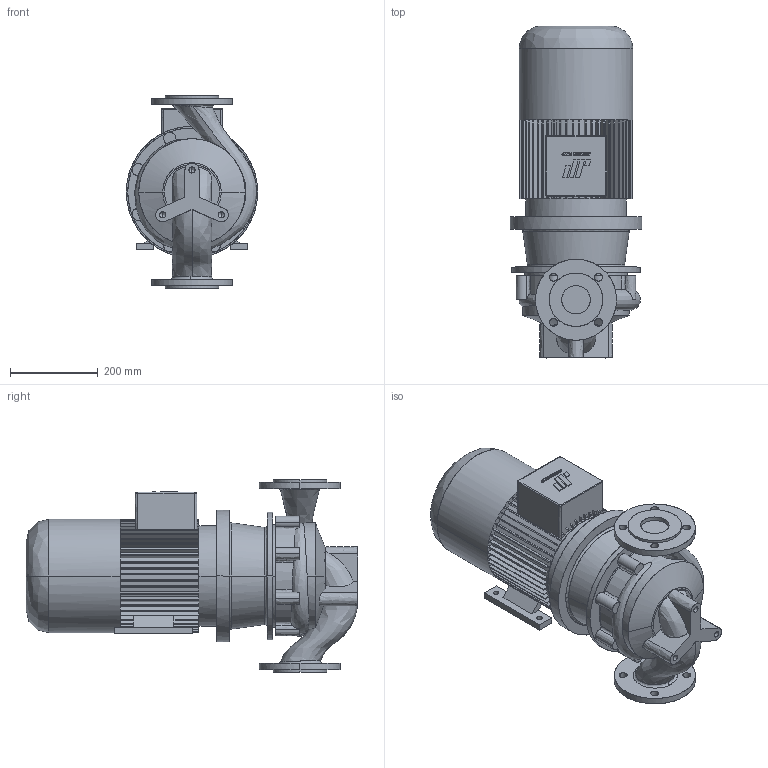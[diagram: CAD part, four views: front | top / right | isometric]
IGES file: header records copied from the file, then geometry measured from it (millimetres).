
Start section: CombiLine
Global section: file name: CLB_65-200_IEC132S_ND10.igs; native system:  By UGS Corp.; preprocessor: XPlus GENERIC/IGES 3.0; author: Stageplaats; organization: Johnson Pump Water B.V.; date: 20070716.131849; units: millimetre
Bounding box: 300 x 757.5 x 440 mm (x, y, z)
Surface area: 1275127 mm2 (no closed solid volume)
Topology: 0 solids, 0 shells, 584 faces, 3538 edges, 3532 vertices
Faces by surface type: bspline 584
